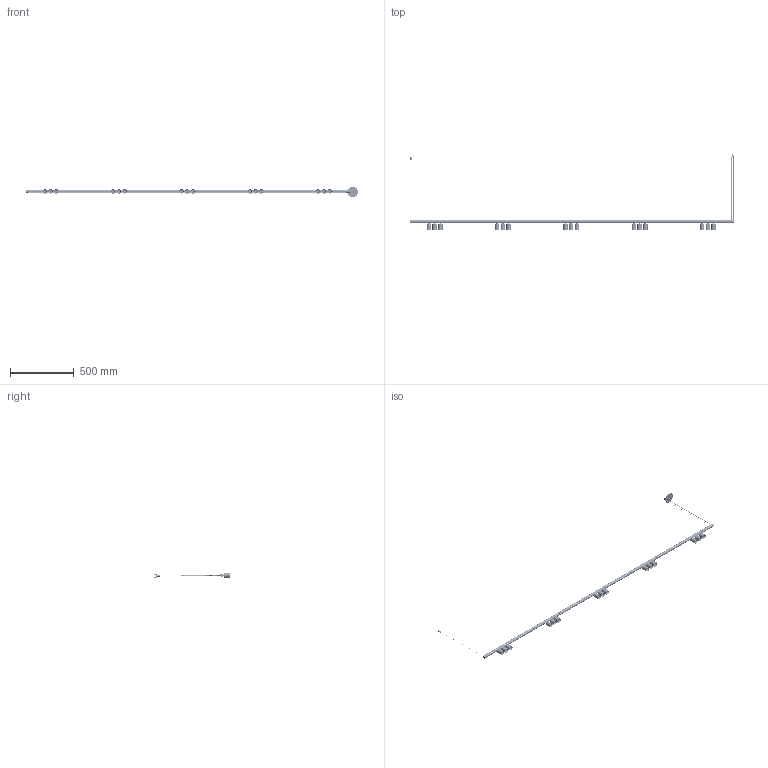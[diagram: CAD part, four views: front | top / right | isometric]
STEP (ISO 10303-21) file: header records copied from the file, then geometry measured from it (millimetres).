
FILE_DESCRIPTION (( 'STEP AP214' ), '1' );
FILE_NAME ('OVAL ROLL 25 rec.STEP', '2024-03-21T09:42:18', ( '' ), ( '' ), 'SwSTEP 2.0', 'SolidWorks 2024', '' );
FILE_SCHEMA (( 'AUTOMOTIVE_DESIGN' ));
Length unit declared in the file: millimetre
Products named in the file (40): Ensamblaje FLORON EMP. MICRO; Tuerca Hembra Conector Jack; Perfil Micro V4_2.5m; Tapa Alimentación Perfil_SCPRE; Tuerca M8_Predeterminada; CUI_DEVICES_PJ-005B_Ø2.5; CJ05-ENS_Roll (V1.2)_Proyector; eje cable colgante_M8 MICRO; CJ04-FOCO ROLL; Led VS MISTER 11_Disipador; Reflector Modulo VS-R11_2; Tapa Unión-Final V5_V5.1 Colgante Union ; COB VS MisterR11; Tapon Tapa_2; OVAL ROLL 25 rec; Tija Tiny_Torno; 04-23DM10-Boca Roll 24V_Ajust 1.0; Prisionero STEAB M4x4_8; Tapa Micro V5_V5.1; Ensamble MISTER 11 24V_Click; Ensamble Tensor Micro_Con Cable; 04-23DM03-Tope_Adaptador_1.3; Difusor Negro Oval_0.1m; Taco Micro_Ø10 M10*5; Ensamble Tapa + Tope_Con Conector; Conector Molex Hembra 43020; Taco cuerpo Micro; 04-23DM07-Adaptador_Caja_ Larga_DM01.3; Cable acero_0.5m; Tapa Floron Emp. MICRO_Tapa empotarable; Floron U Muelle MICRO; Jack_Scpre; Ensamble Conector Jack Unión_Alimentación Colgante SCPRE; 04-23DM08-Adaptador_Tapa_ Largo (V1.2)_24V; 04-23DM09-Cuerpo Roll 24V; Regulador Cable Ø0.6 (Bereta LT1007.0601); Difusor Ø24_.8; Driver Entity EN1689; Cable_VISUAL Alimentación Micro; Difusor Negro Oval_0.38m
Assembly tree (53 placements, depth 5):
  OVAL ROLL 25 rec
    Perfil Micro V4_2.5m
    CJ05-ENS_Roll (V1.2)_Proyector  x5
      04-23DM07-Adaptador_Caja_ Larga_DM01.3
      04-23DM08-Adaptador_Tapa_ Largo (V1.2)_24V
      Conector Molex Hembra 43020
      Driver Entity EN1689
      04-23DM03-Tope_Adaptador_1.3
      CJ04-FOCO ROLL
        04-23DM09-Cuerpo Roll 24V
        Ensamble MISTER 11 24V_Click
          Led VS MISTER 11_Disipador
          Reflector Modulo VS-R11_2
          COB VS MisterR11
          Difusor Ø24_.8
          04-23DM10-Boca Roll 24V_Ajust 1.0
      Tija Tiny_Torno
    Difusor Negro Oval_0.1m  x2
    Difusor Negro Oval_0.38m  x4
    Ensamble Tapa + Tope_Con Conector  x2
      Tapa Micro V5_V5.1
      CUI_DEVICES_PJ-005B_Ø2.5
      Tuerca Hembra Conector Jack
    Ensamble Tensor Micro_Con Cable  x2
      Taco Micro_Ø10 M10*5
      Taco cuerpo Micro
      Regulador Cable Ø0.6 (Bereta LT1007.0601)
      Cable acero_0.5m
    Tapa Unión-Final V5_V5.1 Colgante Union   x2
    Ensamble Conector Jack Unión_Alimentación Colgante SCPRE
      Cable_VISUAL Alimentación Micro
      Jack_Scpre
      Tapa Alimentación Perfil_SCPRE
      Prisionero STEAB M4x4_8
    Ensamblaje FLORON EMP. MICRO
      Tapa Floron Emp. MICRO_Tapa empotarable
      Floron U Muelle MICRO
      eje cable colgante_M8 MICRO
      Tuerca M8_Predeterminada
    Tapon Tapa_2
Bounding box: 2611.94 x 597.37 x 83.01 mm (x, y, z)
Volume: 807170.8 mm3; surface area: 1021779.2 mm2
Topology: 158 solids, 160 shells, 26346 faces, 68693 edges, 42968 vertices
Faces by surface type: bspline 7284, plane 7123, cylinder 6923, torus 2527, cone 1820, sphere 669
Entity records: 170397 total; most frequent: CARTESIAN_POINT 95425, ORIENTED_EDGE 16868, DIRECTION 13606, EDGE_CURVE 8434, VERTEX_POINT 5333, AXIS2_PLACEMENT_3D 5094, EDGE_LOOP 3457, VECTOR 3418
